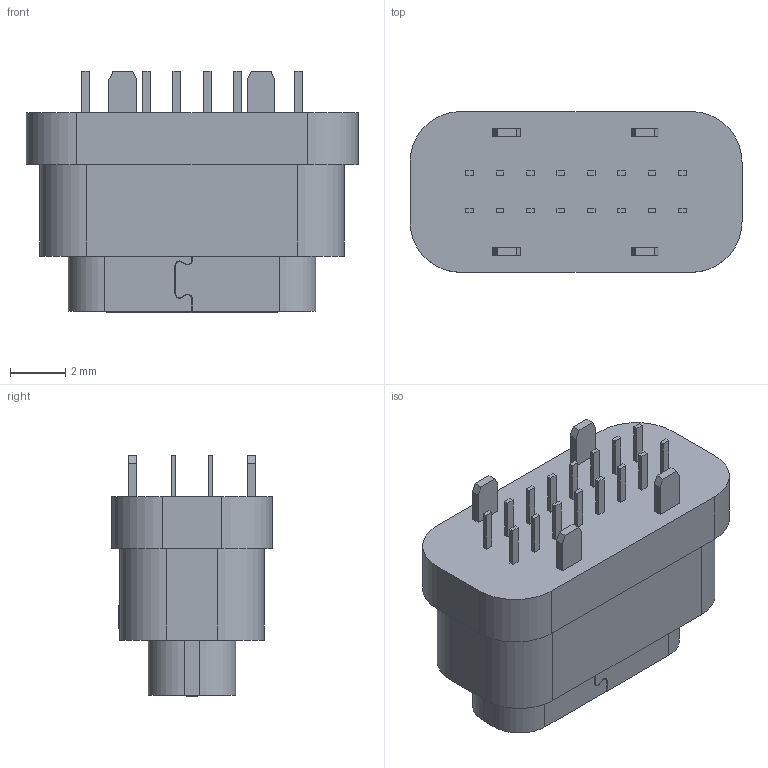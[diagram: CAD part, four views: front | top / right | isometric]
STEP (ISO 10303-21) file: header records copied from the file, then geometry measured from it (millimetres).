
FILE_DESCRIPTION (( 'STEP AP214' ), '1' );
FILE_NAME ('U5202-16PN7.2LF.STEP', '2026-07-29T02:27:50', ( '' ), ( '' ), 'SwSTEP 2.0', 'SolidWorks 2024', '' );
FILE_SCHEMA (( 'AUTOMOTIVE_DESIGN' ));
Length unit declared in the file: millimetre
Products named in the file (1): U5202-16PN7.2LF
Bounding box: 12 x 5.81 x 8.73 mm (x, y, z)
Volume: 291.4 mm3; surface area: 613.7 mm2
Topology: 1 solids, 1 shells, 693 faces, 1907 edges, 1260 vertices
Faces by surface type: plane 559, cylinder 97, bspline 25, cone 12
Entity records: 23187 total; most frequent: CARTESIAN_POINT 5448, ORIENTED_EDGE 3814, DIRECTION 3392, EDGE_CURVE 1907, VECTOR 1640, LINE 1640, VERTEX_POINT 1260, AXIS2_PLACEMENT_3D 876
